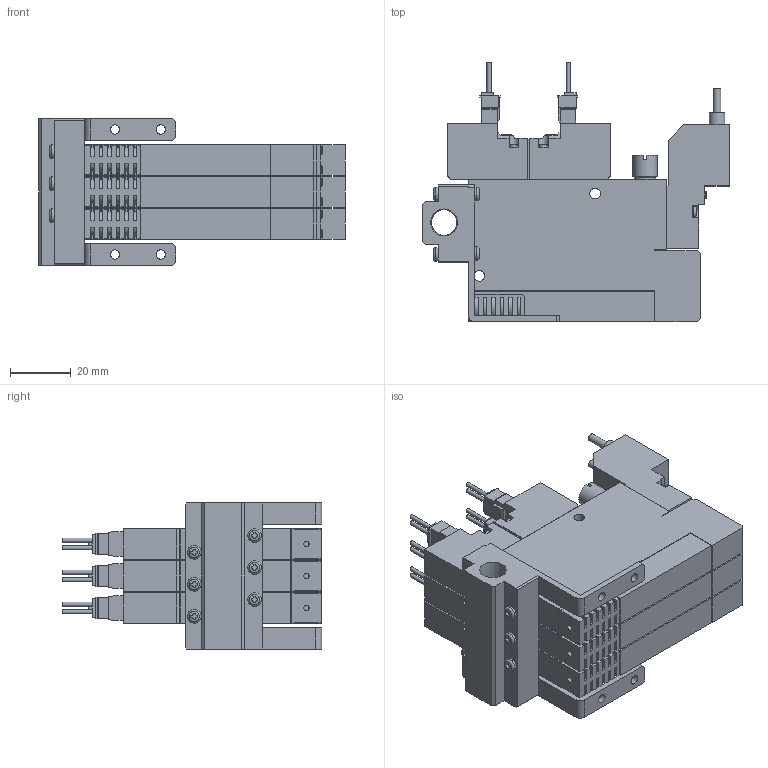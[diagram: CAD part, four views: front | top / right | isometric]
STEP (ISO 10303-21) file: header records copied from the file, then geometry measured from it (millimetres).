
FILE_DESCRIPTION(('STEP AP203'),'1');
FILE_NAME('5SS303_3D.stp','2024-09-04T09:43:32',(' '),(' '),'Spatial InterOp 3D',' ',' ');
FILE_SCHEMA(('CONFIG_CONTROL_DESIGN'));
Length unit declared in the file: millimetre
Products named in the file (5): BSC1M※※V8※5SS303; Solenoid valve S; Pressure Sensor V8; Unit-S; BaseMS30R
Assembly tree (10 placements, depth 2):
  BSC1M※※V8※5SS303
    Solenoid valve S  x3
    Pressure Sensor V8  x3
    Unit-S  x3
    BaseMS30R
Bounding box: 100.5 x 85.05 x 48 mm (x, y, z)
Volume: 151805.5 mm3; surface area: 63140.6 mm2
Topology: 10 solids, 10 shells, 1523 faces, 4161 edges, 2758 vertices
Faces by surface type: plane 1123, cylinder 339, cone 23, torus 22, sphere 16
Full cylindrical faces by diameter (mm): 1.4 x12, 1.8 x3, 2.5 x15, 3 x16, 3.5 x18, 4 x3, 4.134 x6, 4.5 x10, 5 x3, 5.5 x3, 7 x3, 7.7 x3, 8 x3, 8.422 x1
Entity records: 20223 total; most frequent: CARTESIAN_POINT 4384, ORIENTED_EDGE 3184, DIRECTION 3125, EDGE_CURVE 1592, LINE 1149, VECTOR 1149, VERTEX_POINT 1099, AXIS2_PLACEMENT_3D 988
